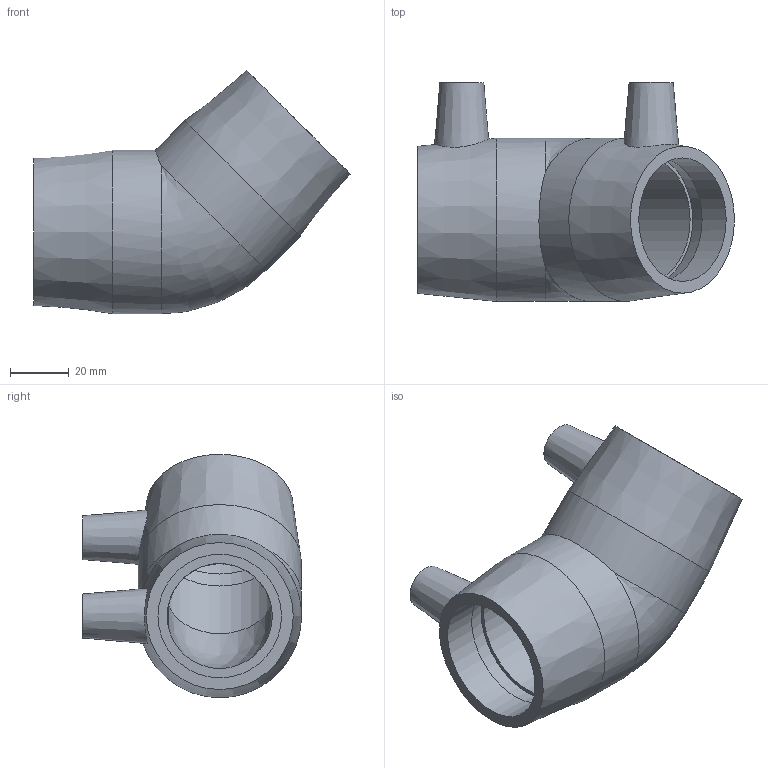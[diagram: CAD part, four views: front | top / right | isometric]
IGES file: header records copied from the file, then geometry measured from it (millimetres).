
Global section: file name: 5906B003013.ipt; native system: Autodesk Inventor 2019; preprocessor: unknown; author: KIM; date: 20210830.101006; units: inch
Bounding box: 107.95 x 74.55 x 82.9 mm (x, y, z)
Volume: 109554.6 mm3; surface area: 36904.1 mm2
Topology: 1 solids, 1 shells, 30 faces, 68 edges, 46 vertices
Faces by surface type: plane 12, revolution 9, cylinder 4, cone 4, bspline 1
Full cylindrical faces by diameter (mm): 4 x2, 55.626 x2
